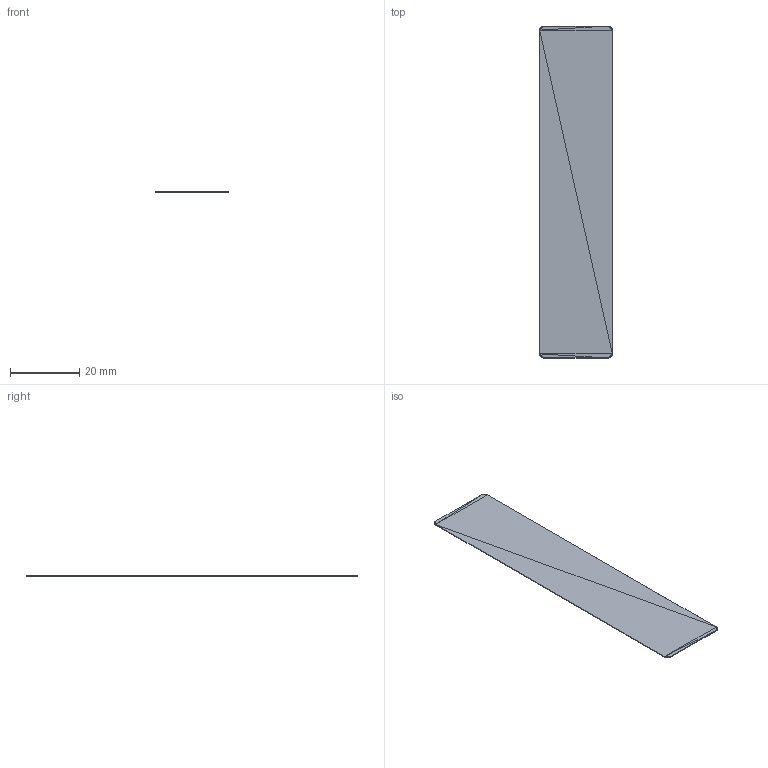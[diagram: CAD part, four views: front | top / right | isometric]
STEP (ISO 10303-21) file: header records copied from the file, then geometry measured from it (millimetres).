
FILE_DESCRIPTION(('Open CASCADE Model'),'2;1');
FILE_NAME('R36_REF_LTE_ORIGINAL_FLEX_INTERNAL_SHIFT', '2026-09-15T13:10:23',('Author'),('Open CASCADE'), 'Open CASCADE STEP processor 7.9','build123d','Unknown');
FILE_SCHEMA(('AUTOMOTIVE_DESIGN { 1 0 10303 214 1 1 1 1 }'));
Length unit declared in the file: millimetre
Products named in the file (2): R36_REF_LTE_ORIGINAL_FLEX_INTERNAL_SHIFT
Assembly tree (1 placements, depth 2):
  R36_REF_LTE_ORIGINAL_FLEX_INTERNAL_SHIFT
    R36_REF_LTE_ORIGINAL_FLEX_INTERNAL_SHIFT
Bounding box: 21 x 96 x 0.2 mm (x, y, z)
Volume: 403 mm3; surface area: 4075.9 mm2
Topology: 1 solids, 1 shells, 348 faces, 522 edges, 176 vertices
Faces by surface type: plane 348
Entity records: 13612 total; most frequent: DIRECTION 2266, CARTESIAN_POINT 2092, LINE 1566, VECTOR 1566, ORIENTED_EDGE 1044, PCURVE 1044, DEFINITIONAL_REPRESENTATION 1044, EDGE_CURVE 522
